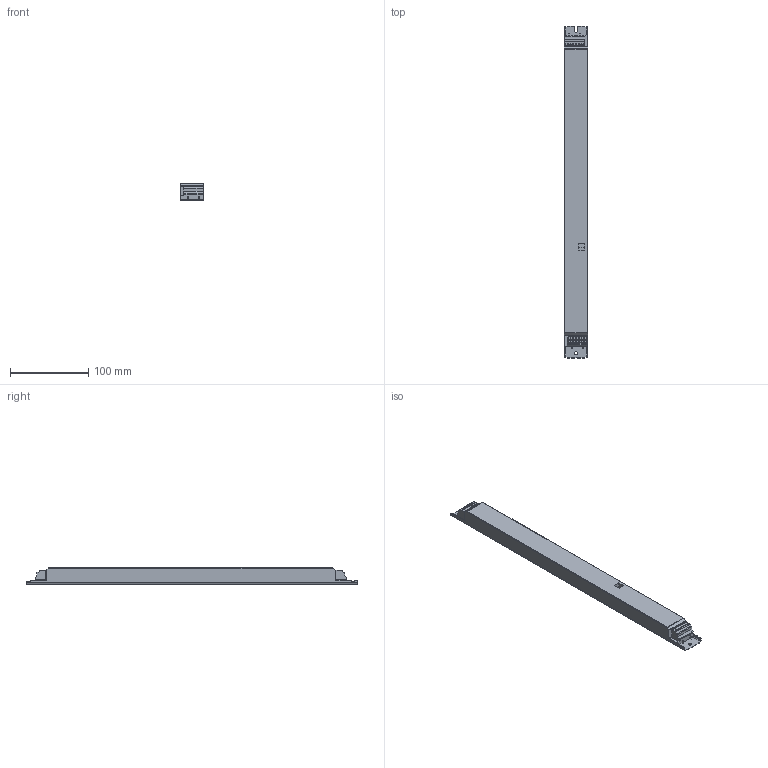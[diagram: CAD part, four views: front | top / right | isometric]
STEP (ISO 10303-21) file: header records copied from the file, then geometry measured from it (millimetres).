
FILE_DESCRIPTION((''),'2;1');
FILE_NAME('15006792Z','2016-04-15T',('juergen.hrach'),(''),'PRO/ENGINEER BY PARAMETRIC TECHNOLOGY CORPORATION, 2015200','PRO/ENGINEER BY PARAMETRIC TECHNOLOGY CORPORATION, 2015200','');
FILE_SCHEMA(('AUTOMOTIVE_DESIGN { 1 0 10303 214 1 1 1 1 }'));
Length unit declared in the file: millimetre
Products named in the file (1): 15006792Z
Bounding box: 30 x 425 x 21 mm (x, y, z)
Volume: 243246.2 mm3; surface area: 44298.1 mm2
Topology: 1 solids, 1 shells, 382 faces, 1119 edges, 744 vertices
Faces by surface type: plane 274, cylinder 108
Entity records: 16848 total; most frequent: CARTESIAN_POINT 2376, ORIENTED_EDGE 2238, DIRECTION 2059, PRESENTATION_STYLE_ASSIGNMENT 1156, STYLED_ITEM 1120, CURVE_STYLE 1119, EDGE_CURVE 1119, VECTOR 871
